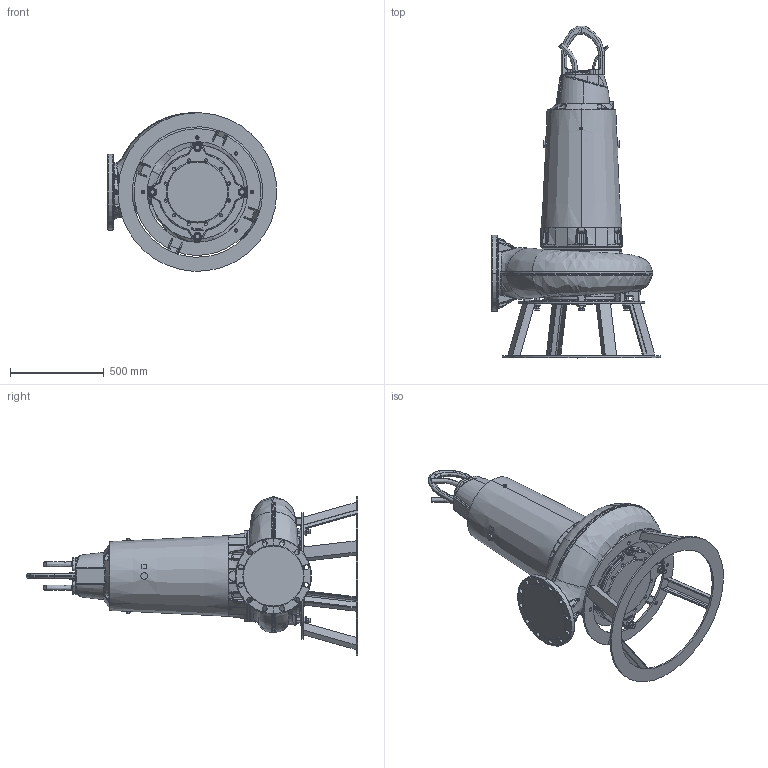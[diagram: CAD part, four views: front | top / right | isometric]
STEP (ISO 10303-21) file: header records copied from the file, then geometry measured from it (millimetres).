
FILE_DESCRIPTION (( 'STEP AP214' ), '1' );
FILE_NAME ('PE4_XFP250J-CB2_WET T_A_NG2.STEP', '2017-02-02T10:52:43', ( '' ), ( '' ), 'SwSTEP 2.0', 'SolidWorks 2017', '' );
FILE_SCHEMA (( 'AUTOMOTIVE_DESIGN' ));
Length unit declared in the file: millimetre
Products named in the file (1): PE4_XFP250J-CB2_WET T_A_NG2
Bounding box: 902.1 x 1767.4 x 844.45 mm (x, y, z)
Volume: 213029862.9 mm3; surface area: 4029415.8 mm2
Topology: 3 solids, 20 shells, 2549 faces, 6439 edges, 3917 vertices
Faces by surface type: bspline 725, plane 707, cylinder 604, cone 323, torus 159, sphere 31
Entity records: 172046 total; most frequent: CARTESIAN_POINT 89318, ORIENTED_EDGE 12730, DIRECTION 9632, EDGE_CURVE 6365, VERTEX_POINT 3917, AXIS2_PLACEMENT_3D 3799, EDGE_LOOP 2708, UNCERTAINTY_MEASURE_WITH_UNIT 2554
